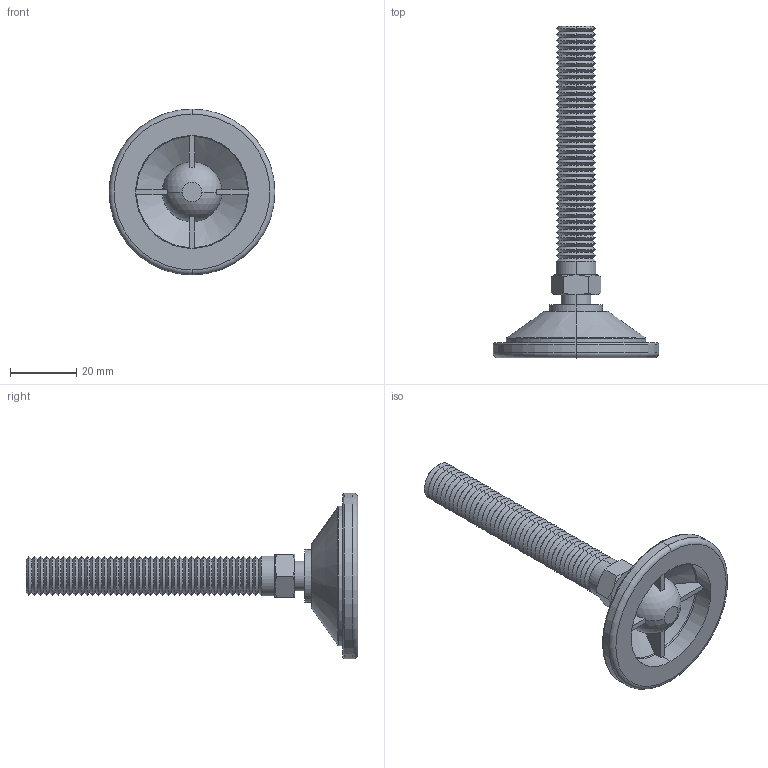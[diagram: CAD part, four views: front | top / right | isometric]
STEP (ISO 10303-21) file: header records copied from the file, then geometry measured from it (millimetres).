
FILE_DESCRIPTION (( 'STEP AP203' ), '1' );
FILE_NAME ('34741.W0123.step', '2016-09-22T07:41:21', ( 'User' ), ( '' ), 'SwSTEP 2.0', 'SolidWorks 2009', '' );
FILE_SCHEMA (( 'CONFIG_CONTROL_DESIGN' ));
Length unit declared in the file: millimetre
Products named in the file (3): Part1_34741.W0123; 34741.W0123; Part2_34741.W0123
Assembly tree (2 placements, depth 2):
  34741.W0123
    Part2_34741.W0123
    Part1_34741.W0123
Bounding box: 50 x 100 x 50 mm (x, y, z)
Volume: 19440.6 mm3; surface area: 12173.2 mm2
Topology: 2 solids, 2 shells, 240 faces, 516 edges, 282 vertices
Faces by surface type: cone 182, plane 26, cylinder 14, torus 12, sphere 6
Entity records: 6745 total; most frequent: CARTESIAN_POINT 1237, DIRECTION 1222, ORIENTED_EDGE 1014, AXIS2_PLACEMENT_3D 510, EDGE_CURVE 507, VERTEX_POINT 277, CIRCLE 265, EDGE_LOOP 246
